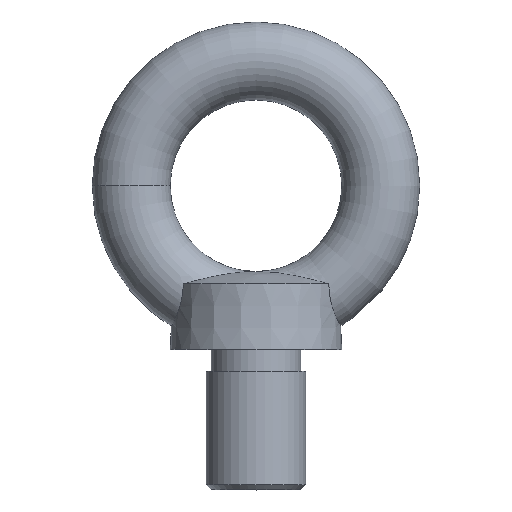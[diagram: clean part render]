
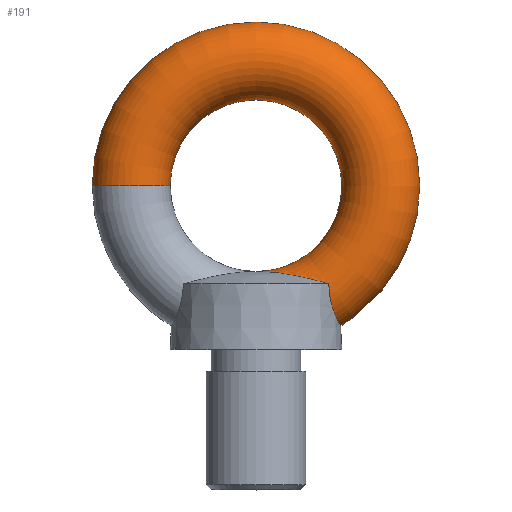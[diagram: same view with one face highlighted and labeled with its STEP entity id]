
A CAD part, top view. The second image highlights one B-rep face of the part: STEP entity #191.
In plain terms, the highlighted toroidal (fillet/blend) face has major radius 80 mm and minor radius 25 mm.
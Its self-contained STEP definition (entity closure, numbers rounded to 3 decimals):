
#15=TOROIDAL_SURFACE('',#235,80.,25.);
#20=B_SPLINE_CURVE_WITH_KNOTS('',3,(#335,#336,#337,#338,#339,#340,#341,
#342,#343,#344,#345,#346,#347,#348),.UNSPECIFIED.,.F.,.F.,(4,2,2,2,2,2,
4),(0.,1.599,2.399,3.198,4.27,
4.805,5.142),.UNSPECIFIED.);
#22=B_SPLINE_CURVE_WITH_KNOTS('',3,(#366,#367,#368,#369,#370,#371,#372,
#373,#374,#375,#376,#377,#378,#379),.UNSPECIFIED.,.F.,.F.,(4,2,2,2,2,2,
4),(13.585,13.921,14.457,15.528,
16.328,17.127,18.726),.UNSPECIFIED.);
#24=B_SPLINE_CURVE_WITH_KNOTS('',3,(#419,#420,#421,#422,#423,#424,#425,
#426,#427,#428,#429,#430),.UNSPECIFIED.,.F.,.F.,(4,2,2,2,2,4),(-4.295,
-3.918,-2.948,-2.019,-1.076,
0.),.UNSPECIFIED.);
#25=B_SPLINE_CURVE_WITH_KNOTS('',3,(#432,#433,#434,#435,#436,#437,#438,
#439,#440,#441,#442,#443),.UNSPECIFIED.,.F.,.F.,(4,2,2,2,2,4),(-8.588,
-7.751,-6.842,-5.882,-4.9,
-4.295),.UNSPECIFIED.);
#42=FACE_OUTER_BOUND('',#55,.T.);
#55=EDGE_LOOP('',(#167,#168,#169,#170,#171,#172,#173));
#78=CIRCLE('',#236,25.);
#79=CIRCLE('',#237,55.);
#87=VERTEX_POINT('',#318);
#88=VERTEX_POINT('',#333);
#90=VERTEX_POINT('',#365);
#97=VERTEX_POINT('',#418);
#98=VERTEX_POINT('',#445);
#108=EDGE_CURVE('',#87,#88,#20,.T.);
#110=EDGE_CURVE('',#90,#87,#22,.T.);
#120=EDGE_CURVE('',#97,#90,#24,.T.);
#122=EDGE_CURVE('',#88,#97,#25,.T.);
#123=EDGE_CURVE('',#98,#98,#78,.T.);
#124=EDGE_CURVE('',#98,#87,#79,.T.);
#167=ORIENTED_EDGE('',*,*,#123,.F.);
#168=ORIENTED_EDGE('',*,*,#124,.T.);
#169=ORIENTED_EDGE('',*,*,#108,.T.);
#170=ORIENTED_EDGE('',*,*,#122,.T.);
#171=ORIENTED_EDGE('',*,*,#120,.T.);
#172=ORIENTED_EDGE('',*,*,#110,.T.);
#173=ORIENTED_EDGE('',*,*,#124,.F.);
#191=ADVANCED_FACE('',(#42),#15,.T.);
#235=AXIS2_PLACEMENT_3D('',#444,#290,#291);
#236=AXIS2_PLACEMENT_3D('',#446,#292,#293);
#237=AXIS2_PLACEMENT_3D('',#447,#294,#295);
#290=DIRECTION('center_axis',(0.,0.,1.));
#291=DIRECTION('ref_axis',(1.,0.,0.));
#292=DIRECTION('center_axis',(0.,-1.,0.));
#293=DIRECTION('ref_axis',(-1.,0.,0.));
#294=DIRECTION('center_axis',(0.,0.,-1.));
#295=DIRECTION('ref_axis',(1.,0.,0.));
#318=CARTESIAN_POINT('',(0.,-55.,0.));
#333=CARTESIAN_POINT('',(46.65,-63.,24.948));
#335=CARTESIAN_POINT('Ctrl Pts',(0.,-55.,0.));
#336=CARTESIAN_POINT('Ctrl Pts',(4.099,-55.,3.407));
#337=CARTESIAN_POINT('Ctrl Pts',(8.596,-55.255,7.157));
#338=CARTESIAN_POINT('Ctrl Pts',(15.591,-56.084,12.33));
#339=CARTESIAN_POINT('Ctrl Pts',(17.966,-56.431,13.977));
#340=CARTESIAN_POINT('Ctrl Pts',(22.729,-57.241,16.981));
#341=CARTESIAN_POINT('Ctrl Pts',(25.118,-57.703,18.335));
#342=CARTESIAN_POINT('Ctrl Pts',(30.608,-58.863,21.058));
#343=CARTESIAN_POINT('Ctrl Pts',(34.159,-59.695,22.501));
#344=CARTESIAN_POINT('Ctrl Pts',(39.614,-61.086,23.983));
#345=CARTESIAN_POINT('Ctrl Pts',(41.455,-61.572,24.366));
#346=CARTESIAN_POINT('Ctrl Pts',(44.41,-62.376,24.78));
#347=CARTESIAN_POINT('Ctrl Pts',(45.541,-62.689,24.89));
#348=CARTESIAN_POINT('Ctrl Pts',(46.65,-63.,24.948));
#365=CARTESIAN_POINT('',(46.65,-63.,-24.948));
#366=CARTESIAN_POINT('Ctrl Pts',(46.65,-63.,-24.948));
#367=CARTESIAN_POINT('Ctrl Pts',(45.541,-62.689,-24.89));
#368=CARTESIAN_POINT('Ctrl Pts',(44.41,-62.376,-24.78));
#369=CARTESIAN_POINT('Ctrl Pts',(41.455,-61.572,-24.366));
#370=CARTESIAN_POINT('Ctrl Pts',(39.614,-61.086,-23.983));
#371=CARTESIAN_POINT('Ctrl Pts',(34.159,-59.695,-22.501));
#372=CARTESIAN_POINT('Ctrl Pts',(30.608,-58.863,-21.058));
#373=CARTESIAN_POINT('Ctrl Pts',(25.118,-57.703,-18.335));
#374=CARTESIAN_POINT('Ctrl Pts',(22.729,-57.241,-16.981));
#375=CARTESIAN_POINT('Ctrl Pts',(17.966,-56.431,-13.977));
#376=CARTESIAN_POINT('Ctrl Pts',(15.591,-56.084,-12.33));
#377=CARTESIAN_POINT('Ctrl Pts',(8.596,-55.255,-7.157));
#378=CARTESIAN_POINT('Ctrl Pts',(4.099,-55.,-3.407));
#379=CARTESIAN_POINT('Ctrl Pts',(0.,-55.,0.));
#418=CARTESIAN_POINT('',(54.246,-89.902,0.));
#419=CARTESIAN_POINT('Ctrl Pts',(54.246,-89.902,0.));
#420=CARTESIAN_POINT('Ctrl Pts',(54.246,-89.902,-1.245));
#421=CARTESIAN_POINT('Ctrl Pts',(54.199,-89.822,-2.491));
#422=CARTESIAN_POINT('Ctrl Pts',(53.866,-89.245,-6.905));
#423=CARTESIAN_POINT('Ctrl Pts',(53.319,-88.305,-9.959));
#424=CARTESIAN_POINT('Ctrl Pts',(51.865,-85.451,-15.364));
#425=CARTESIAN_POINT('Ctrl Pts',(50.99,-83.605,-17.688));
#426=CARTESIAN_POINT('Ctrl Pts',(49.258,-79.04,-21.496));
#427=CARTESIAN_POINT('Ctrl Pts',(48.442,-76.394,-22.9));
#428=CARTESIAN_POINT('Ctrl Pts',(47.133,-70.104,-24.825));
#429=CARTESIAN_POINT('Ctrl Pts',(46.751,-66.58,-25.138));
#430=CARTESIAN_POINT('Ctrl Pts',(46.65,-63.,-24.948));
#432=CARTESIAN_POINT('Ctrl Pts',(46.65,-63.,24.948));
#433=CARTESIAN_POINT('Ctrl Pts',(46.728,-65.782,25.095));
#434=CARTESIAN_POINT('Ctrl Pts',(46.974,-68.548,24.939));
#435=CARTESIAN_POINT('Ctrl Pts',(47.898,-74.156,23.754));
#436=CARTESIAN_POINT('Ctrl Pts',(48.592,-76.856,22.679));
#437=CARTESIAN_POINT('Ctrl Pts',(50.252,-81.848,19.425));
#438=CARTESIAN_POINT('Ctrl Pts',(51.187,-83.996,17.258));
#439=CARTESIAN_POINT('Ctrl Pts',(52.83,-87.407,12.071));
#440=CARTESIAN_POINT('Ctrl Pts',(53.507,-88.612,9.094));
#441=CARTESIAN_POINT('Ctrl Pts',(54.124,-89.697,3.987));
#442=CARTESIAN_POINT('Ctrl Pts',(54.246,-89.902,1.995));
#443=CARTESIAN_POINT('Ctrl Pts',(54.246,-89.902,0.));
#444=CARTESIAN_POINT('Origin',(0.,0.,0.));
#445=CARTESIAN_POINT('',(-55.,0.,0.));
#446=CARTESIAN_POINT('Origin',(-80.,0.,0.));
#447=CARTESIAN_POINT('Origin',(0.,0.,0.));
